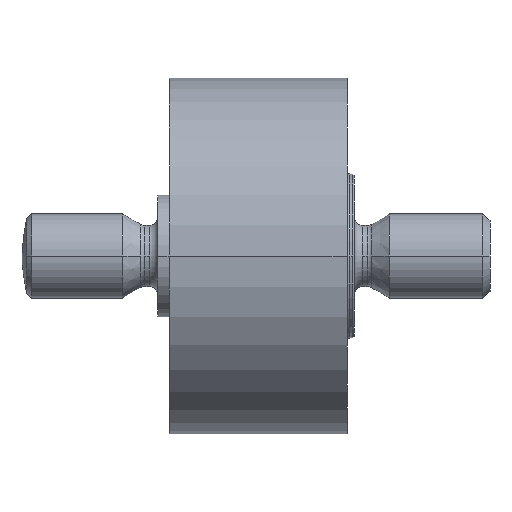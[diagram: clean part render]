
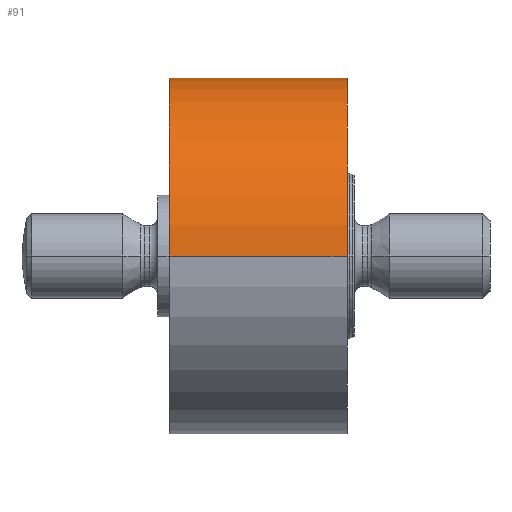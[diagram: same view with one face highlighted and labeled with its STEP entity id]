
A CAD part, left-side view. The second image highlights one B-rep face of the part: STEP entity #91.
In plain terms, the highlighted cylindrical face has radius 12.7 mm (diameter 25.4 mm), a partial arc.
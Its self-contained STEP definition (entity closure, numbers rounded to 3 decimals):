
#91=ADVANCED_FACE('',(#183),#184,.T.);
#183=FACE_OUTER_BOUND('',#341,.T.);
#184=CYLINDRICAL_SURFACE('',#342,12.7);
#341=EDGE_LOOP('',(#628,#629,#630,#631,#632,#633));
#342=AXIS2_PLACEMENT_3D('',#634,#635,#636);
#628=ORIENTED_EDGE('',*,*,#1150,.F.);
#629=ORIENTED_EDGE('',*,*,#1151,.T.);
#630=ORIENTED_EDGE('',*,*,#1152,.F.);
#631=ORIENTED_EDGE('',*,*,#1153,.F.);
#632=ORIENTED_EDGE('',*,*,#1154,.F.);
#633=ORIENTED_EDGE('',*,*,#1155,.T.);
#634=CARTESIAN_POINT('',(0.0,5.1,0.0));
#635=DIRECTION('',(0.0,-1.0,0.0));
#636=DIRECTION('',(1.0,0.0,0.0));
#1150=EDGE_CURVE('',#1388,#1389,#1390,.T.);
#1151=EDGE_CURVE('',#1388,#1391,#1392,.T.);
#1152=EDGE_CURVE('',#1393,#1391,#1394,.T.);
#1153=EDGE_CURVE('',#1395,#1393,#1396,.T.);
#1154=EDGE_CURVE('',#1397,#1395,#1398,.T.);
#1155=EDGE_CURVE('',#1397,#1389,#1399,.T.);
#1388=VERTEX_POINT('',#1701);
#1389=VERTEX_POINT('',#1702);
#1390=LINE('',#1703,#1704);
#1391=VERTEX_POINT('',#1705);
#1392=CIRCLE('',#1706,12.7);
#1393=VERTEX_POINT('',#1707);
#1394=LINE('',#1708,#1709);
#1395=VERTEX_POINT('',#1710);
#1396=CIRCLE('',#1711,12.7);
#1397=VERTEX_POINT('',#1712);
#1398=LINE('',#1713,#1714);
#1399=B_SPLINE_CURVE_WITH_KNOTS('',3,(#1715,#1716,#1717,#1718,#1719,#1720,#1721,#1722,#1723,#1724,#1725,#1726,#1727,#1728,#1729,#1730,#1731,#1732,#1733),.UNSPECIFIED.,.F.,.F.,(4,2,2,2,3,2,2,2,4),(1.476,1.599,1.722,1.845,1.968,2.091,2.214,2.337,2.46),.UNSPECIFIED.);
#1701=CARTESIAN_POINT('',(12.7,10.2,0.0));
#1702=CARTESIAN_POINT('',(12.7,7.25,0.0));
#1703=CARTESIAN_POINT('',(12.7,5.1,0.));
#1704=VECTOR('',#2198,1.0);
#1705=CARTESIAN_POINT('',(-12.7,10.2,0.));
#1706=AXIS2_PLACEMENT_3D('',#2199,#2200,#2201);
#1707=CARTESIAN_POINT('',(-12.7,-2.5,0.));
#1708=CARTESIAN_POINT('',(-12.7,5.1,0.));
#1709=VECTOR('',#2202,1.0);
#1710=CARTESIAN_POINT('',(12.7,-2.5,0.0));
#1711=AXIS2_PLACEMENT_3D('',#2203,#2204,#2205);
#1712=CARTESIAN_POINT('',(12.7,0.75,0.0));
#1713=CARTESIAN_POINT('',(12.7,5.1,0.));
#1714=VECTOR('',#2206,1.0);
#1715=CARTESIAN_POINT('',(12.7,0.75,0.0));
#1716=CARTESIAN_POINT('',(12.7,0.75,0.41));
#1717=CARTESIAN_POINT('',(12.678,0.832,0.846));
#1718=CARTESIAN_POINT('',(12.599,1.165,1.646));
#1719=CARTESIAN_POINT('',(12.543,1.414,2.011));
#1720=CARTESIAN_POINT('',(12.437,1.989,2.586));
#1721=CARTESIAN_POINT('',(12.381,2.354,2.835));
#1722=CARTESIAN_POINT('',(12.3,3.154,3.168));
#1723=CARTESIAN_POINT('',(12.277,3.59,3.25));
#1724=CARTESIAN_POINT('',(12.277,4.0,3.25));
#1725=CARTESIAN_POINT('',(12.277,4.41,3.25));
#1726=CARTESIAN_POINT('',(12.3,4.846,3.168));
#1727=CARTESIAN_POINT('',(12.381,5.646,2.835));
#1728=CARTESIAN_POINT('',(12.437,6.011,2.586));
#1729=CARTESIAN_POINT('',(12.543,6.586,2.011));
#1730=CARTESIAN_POINT('',(12.599,6.835,1.646));
#1731=CARTESIAN_POINT('',(12.678,7.168,0.846));
#1732=CARTESIAN_POINT('',(12.7,7.25,0.41));
#1733=CARTESIAN_POINT('',(12.7,7.25,0.));
#2198=DIRECTION('',(0.0,-1.0,0.0));
#2199=CARTESIAN_POINT('',(0.0,10.2,0.0));
#2200=DIRECTION('',(0.0,-1.0,0.0));
#2201=DIRECTION('',(1.0,0.0,0.0));
#2202=DIRECTION('',(0.0,1.0,0.0));
#2203=CARTESIAN_POINT('',(0.0,-2.5,0.0));
#2204=DIRECTION('',(0.0,-1.0,0.0));
#2205=DIRECTION('',(1.0,0.0,0.0));
#2206=DIRECTION('',(0.0,-1.0,0.0));
